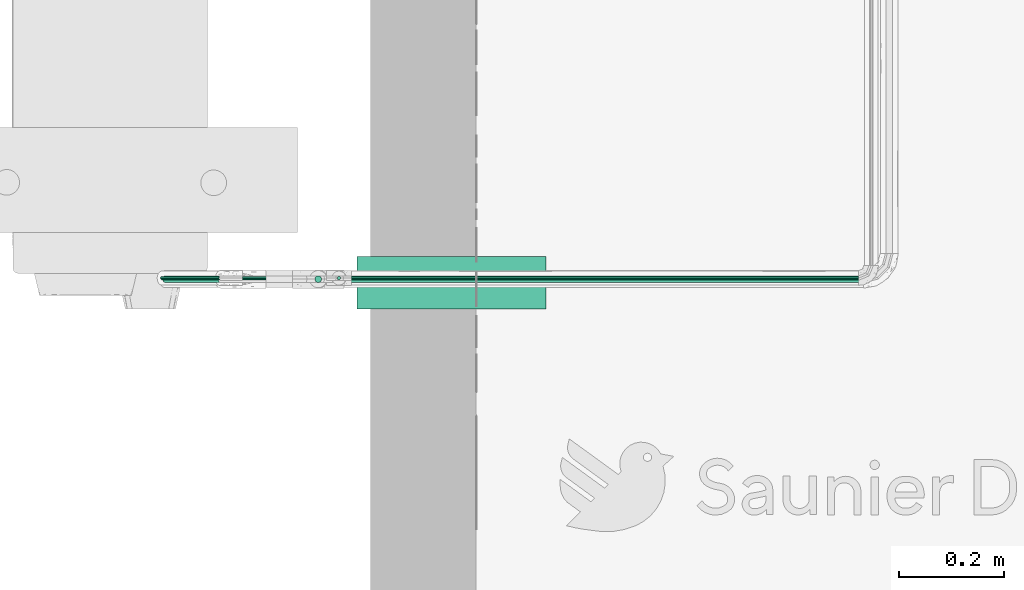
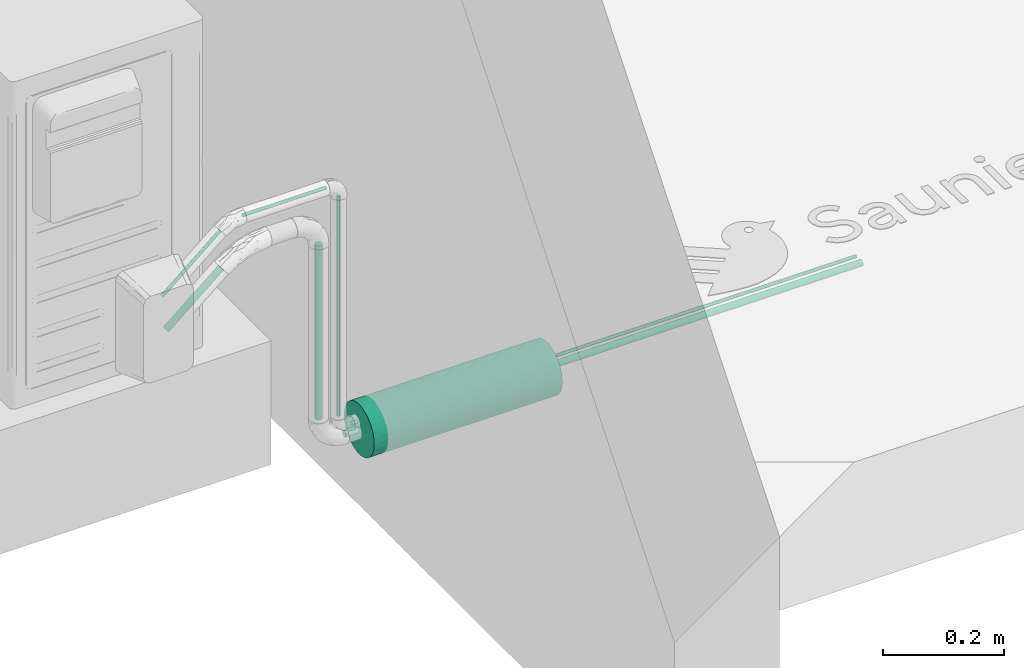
# One storey, part 17 of 30: 8 flow segments.
"""IFC2X3 building model written with IfcOpenShell, lengths in metres."""

from ifc_helpers import new_model, entity, si_unit, converted_unit, derived_unit, direction, frame, frame_2d, origin, origin_2d_with_axis, place, context, subcontext, project, spatial, circle, extrude, type_object, element, save


model = new_model("IFC2X3")

# Units and contexts
model_context = context("Model", 3, precision=1e-05, world=origin(), true_north=direction((6.123031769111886e-17, 1.0)))
body_context = subcontext(model_context, "Body", "Model", "MODEL_VIEW")
ifc_project = project(units=[si_unit("LENGTHUNIT", "METRE"), si_unit("AREAUNIT", "SQUARE_METRE"), si_unit("VOLUMEUNIT", "CUBIC_METRE"), converted_unit("PLANEANGLEUNIT", "DEGREE", entity("IfcPlaneAngleMeasure", 0.017453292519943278), si_unit("PLANEANGLEUNIT", "RADIAN"), dimensions=[0, 0, 0, 0, 0, 0, 0]), si_unit("MASSUNIT", "GRAM", prefix="KILO"), derived_unit("MASSDENSITYUNIT", [(si_unit("MASSUNIT", "GRAM", prefix="KILO"), 1), (si_unit("LENGTHUNIT", "METRE"), -3)]), derived_unit("IONCONCENTRATIONUNIT", [(si_unit("MASSUNIT", "GRAM", prefix="KILO"), 1), (si_unit("LENGTHUNIT", "METRE"), -3)]), derived_unit("MOMENTOFINERTIAUNIT", [(si_unit("LENGTHUNIT", "METRE"), 4)]), si_unit("TIMEUNIT", "SECOND"), si_unit("FREQUENCYUNIT", "HERTZ"), si_unit("THERMODYNAMICTEMPERATUREUNIT", "DEGREE_CELSIUS"), derived_unit("THERMALTRANSMITTANCEUNIT", [(si_unit("MASSUNIT", "GRAM", prefix="KILO"), 1), (si_unit("THERMODYNAMICTEMPERATUREUNIT", "KELVIN"), -1), (si_unit("TIMEUNIT", "SECOND"), -3)]), derived_unit("THERMALCONDUCTANCEUNIT", [(si_unit("MASSUNIT", "GRAM", prefix="KILO"), 1), (si_unit("THERMODYNAMICTEMPERATUREUNIT", "KELVIN"), -1), (si_unit("TIMEUNIT", "SECOND"), -3), (si_unit("LENGTHUNIT", "METRE"), 1)]), derived_unit("VOLUMETRICFLOWRATEUNIT", [(si_unit("LENGTHUNIT", "METRE", prefix="DECI"), 3), (si_unit("TIMEUNIT", "SECOND"), -1)]), derived_unit("MASSFLOWRATEUNIT", [(si_unit("MASSUNIT", "GRAM", prefix="KILO"), 1), (si_unit("TIMEUNIT", "SECOND"), -1)]), derived_unit("ROTATIONALFREQUENCYUNIT", [(si_unit("TIMEUNIT", "SECOND"), -1)]), si_unit("ELECTRICCURRENTUNIT", "AMPERE"), si_unit("ELECTRICVOLTAGEUNIT", "VOLT"), si_unit("POWERUNIT", "WATT"), si_unit("FORCEUNIT", "NEWTON", prefix="KILO"), si_unit("ILLUMINANCEUNIT", "LUX"), si_unit("LUMINOUSFLUXUNIT", "LUMEN"), si_unit("LUMINOUSINTENSITYUNIT", "CANDELA"), si_unit("ENERGYUNIT", "JOULE"), derived_unit("USERDEFINED", [(si_unit("MASSUNIT", "GRAM", prefix="KILO"), -1), (si_unit("LENGTHUNIT", "METRE"), -2), (si_unit("TIMEUNIT", "SECOND"), 3), (si_unit("LUMINOUSFLUXUNIT", "LUMEN"), 1)]), derived_unit("USERDEFINED", [(si_unit("MASSUNIT", "GRAM", prefix="KILO"), 1), (si_unit("TIMEUNIT", "SECOND"), -3), (si_unit("LENGTHUNIT", "METRE"), 3), (si_unit("ELECTRICCURRENTUNIT", "AMPERE"), -2)]), derived_unit("SOUNDPOWERUNIT", [(si_unit("MASSUNIT", "GRAM", prefix="KILO"), 1), (si_unit("TIMEUNIT", "SECOND"), -3), (si_unit("LENGTHUNIT", "METRE"), 2)]), derived_unit("SOUNDPRESSUREUNIT", [(si_unit("MASSUNIT", "GRAM", prefix="KILO"), 1), (si_unit("LENGTHUNIT", "METRE"), -1), (si_unit("TIMEUNIT", "SECOND"), -2)]), derived_unit("LINEARVELOCITYUNIT", [(si_unit("LENGTHUNIT", "METRE"), 1), (si_unit("TIMEUNIT", "SECOND"), -1)]), si_unit("PRESSUREUNIT", "PASCAL"), derived_unit("USERDEFINED", [(si_unit("MASSUNIT", "GRAM", prefix="KILO"), 1), (si_unit("LENGTHUNIT", "METRE"), -2), (si_unit("TIMEUNIT", "SECOND"), -2)]), derived_unit("LINEARFORCEUNIT", [(si_unit("MASSUNIT", "GRAM", prefix="KILO"), 1), (si_unit("TIMEUNIT", "SECOND"), -2)]), derived_unit("PLANARFORCEUNIT", [(si_unit("MASSUNIT", "GRAM", prefix="KILO"), 1), (si_unit("LENGTHUNIT", "METRE"), -1), (si_unit("TIMEUNIT", "SECOND"), -2)]), derived_unit("SPECIFICHEATCAPACITYUNIT", [(si_unit("THERMODYNAMICTEMPERATUREUNIT", "KELVIN"), -1), (si_unit("LENGTHUNIT", "METRE"), 2), (si_unit("TIMEUNIT", "SECOND"), -2)]), derived_unit("HEATFLUXDENSITYUNIT", [(si_unit("MASSUNIT", "GRAM", prefix="KILO"), 1), (si_unit("TIMEUNIT", "SECOND"), -3)]), derived_unit("HEATINGVALUEUNIT", [(si_unit("LENGTHUNIT", "METRE"), 2), (si_unit("TIMEUNIT", "SECOND"), -2)]), derived_unit("VAPORPERMEABILITYUNIT", [(si_unit("LENGTHUNIT", "METRE"), -1), (si_unit("TIMEUNIT", "SECOND"), 1)]), derived_unit("DYNAMICVISCOSITYUNIT", [(si_unit("MASSUNIT", "GRAM", prefix="KILO"), 1), (si_unit("TIMEUNIT", "SECOND"), -1), (si_unit("LENGTHUNIT", "METRE"), -1)]), derived_unit("THERMALEXPANSIONCOEFFICIENTUNIT", [(si_unit("THERMODYNAMICTEMPERATUREUNIT", "KELVIN"), -1)]), derived_unit("MODULUSOFELASTICITYUNIT", [(si_unit("MASSUNIT", "GRAM", prefix="KILO"), 1), (si_unit("LENGTHUNIT", "METRE"), -1), (si_unit("TIMEUNIT", "SECOND"), -2)]), derived_unit("ISOTHERMALMOISTURECAPACITYUNIT", [(si_unit("MASSUNIT", "GRAM", prefix="KILO"), -1), (si_unit("LENGTHUNIT", "METRE"), 3)]), derived_unit("MOISTUREDIFFUSIVITYUNIT", [(si_unit("TIMEUNIT", "SECOND"), -1), (si_unit("LENGTHUNIT", "METRE"), 2)]), derived_unit("MASSPERLENGTHUNIT", [(si_unit("MASSUNIT", "GRAM", prefix="KILO"), 1), (si_unit("LENGTHUNIT", "METRE"), -1)]), derived_unit("THERMALRESISTANCEUNIT", [(si_unit("MASSUNIT", "GRAM", prefix="KILO"), -1), (si_unit("TIMEUNIT", "SECOND"), 3), (si_unit("THERMODYNAMICTEMPERATUREUNIT", "KELVIN"), 1)]), derived_unit("ACCELERATIONUNIT", [(si_unit("LENGTHUNIT", "METRE"), 1), (si_unit("TIMEUNIT", "SECOND"), -2)]), derived_unit("ANGULARVELOCITYUNIT", [(si_unit("TIMEUNIT", "SECOND"), -1), (si_unit("PLANEANGLEUNIT", "RADIAN"), 1)]), derived_unit("LINEARSTIFFNESSUNIT", [(si_unit("MASSUNIT", "GRAM", prefix="KILO"), 1), (si_unit("TIMEUNIT", "SECOND"), -2)]), derived_unit("WARPINGCONSTANTUNIT", [(si_unit("LENGTHUNIT", "METRE"), 6)]), derived_unit("LINEARMOMENTUNIT", [(si_unit("MASSUNIT", "GRAM", prefix="KILO"), 1), (si_unit("LENGTHUNIT", "METRE"), 1), (si_unit("TIMEUNIT", "SECOND"), -2)]), derived_unit("TORQUEUNIT", [(si_unit("MASSUNIT", "GRAM", prefix="KILO"), 1), (si_unit("LENGTHUNIT", "METRE"), 2), (si_unit("TIMEUNIT", "SECOND"), -2)])], contexts=[model_context])

# Site, building, storey
site_placement = place(None, origin())
site = spatial("IfcSite", under=ifc_project, at=site_placement, Name="Default", CompositionType="ELEMENT")
building_placement = place(site_placement, origin())
building = spatial("IfcBuilding", under=site, at=building_placement, CompositionType="ELEMENT")
storey_placement = place(building_placement, origin())
storey = spatial("IfcBuildingStorey", under=building, at=storey_placement, Name="Niveau 0", CompositionType="ELEMENT", Elevation=-1.949160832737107e-14)

# Flow segments
pipe_segment_type_1 = type_object("IfcPipeSegmentType", Name="Canalisation:PVC - NF", PredefinedType="NOTDEFINED")
flow_segment_1_placement = place(storey_placement, origin())
element("IfcFlowSegment", 1, at=flow_segment_1_placement, inside=storey, type_object=pipe_segment_type_1, Name="Canalisation:PVC - NF", ObjectType="Canalisation:PVC - NF", context=body_context, shape_type="SweptSolid", body=[
    extrude(circle(Radius=0.05, at=frame_2d((2.707167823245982e-16, -6.767919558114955e-17), x_axis=(1.0, 0.0))), frame((-20.842459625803, 1.368526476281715, -0.41015511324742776), z_axis=(1.0, 0.0, 0.0), x_axis=(0.0, -1.0, 0.0)), (0.0, 0.0, 1.0), 0.35999999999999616),
])
pipe_segment_type_2 = type_object("IfcPipeSegmentType", Name="Canalisation:Cuivre Frigo", PredefinedType="NOTDEFINED")
flow_segment_2_placement = place(storey_placement, origin())
element("IfcFlowSegment", 2, at=flow_segment_2_placement, inside=storey, type_object=pipe_segment_type_2, Name="Canalisation:Cuivre Frigo", ObjectType="Canalisation:Cuivre Frigo", context=body_context, shape_type="SweptSolid", body=[
    extrude(circle(Radius=0.0032, at=frame_2d((0.0, -2.7874546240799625e-15), x_axis=(1.0, 0.0))), frame((-21.214478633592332, 1.3770530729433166, -0.01567319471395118), z_axis=(0.7660444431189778, 0.0, 0.6427876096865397), x_axis=(0.0, -1.0, 0.0)), (0.0, 0.0, 1.0), 0.14549999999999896),
])
flow_segment_3_placement = place(storey_placement, origin())
element("IfcFlowSegment", 3, at=flow_segment_3_placement, inside=storey, type_object=pipe_segment_type_2, Name="Canalisation:Cuivre Frigo", ObjectType="Canalisation:Cuivre Frigo", context=body_context, shape_type="SweptSolid", body=[
    extrude(circle(Radius=0.0032, at=origin_2d_with_axis()), frame((-21.060457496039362, 1.3770530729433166, 0.09334358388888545), z_axis=(1.0, 0.0, 0.0), x_axis=(0.0, -1.0, 0.0)), (0.0, 0.0, 1.0), 0.15944880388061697),
])
flow_segment_4_placement = place(storey_placement, origin())
element("IfcFlowSegment", 4, at=flow_segment_4_placement, inside=storey, type_object=pipe_segment_type_2, Name="Canalisation:Cuivre Frigo", ObjectType="Canalisation:Cuivre Frigo", context=body_context, shape_type="SweptSolid", body=[
    extrude(circle(Radius=0.00635, at=frame_2d((0.0, -1.2961317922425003e-17), x_axis=(1.0, 0.0))), frame((-21.208033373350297, 1.375053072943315, -0.08467319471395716), z_axis=(0.7660444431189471, 0.0, 0.6427876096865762), x_axis=(0.0, 1.0, 0.0)), (0.0, 0.0, 1.0), 0.13792377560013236),
])
flow_segment_5_placement = place(storey_placement, origin())
element("IfcFlowSegment", 5, at=flow_segment_5_placement, inside=storey, type_object=pipe_segment_type_2, Name="Canalisation:Cuivre Frigo", ObjectType="Canalisation:Cuivre Frigo", context=body_context, shape_type="SweptSolid", body=[
    extrude(circle(Radius=0.0032, at=origin_2d_with_axis()), frame((-20.876908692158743, 1.3770530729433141, -0.3758999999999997)), (0.0, 0.0, 1.0), 0.4451435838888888),
])
flow_segment_6_placement = place(storey_placement, origin())
element("IfcFlowSegment", 6, at=flow_segment_6_placement, inside=storey, type_object=pipe_segment_type_2, Name="Canalisation:Cuivre Frigo", ObjectType="Canalisation:Cuivre Frigo", context=body_context, shape_type="SweptSolid", body=[
    extrude(circle(Radius=0.0032, at=frame_2d((-4.602185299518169e-15, 1.6919798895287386e-15), x_axis=(1.0, 0.0))), frame((-20.852808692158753, 1.3770530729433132, -0.39999999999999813), z_axis=(1.0, 0.0, 0.0), x_axis=(0.0, 1.0, 0.0)), (0.0, 0.0, 1.0), 0.9655442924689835),
])
flow_segment_7_placement = place(storey_placement, origin())
element("IfcFlowSegment", 7, at=flow_segment_7_placement, inside=storey, type_object=pipe_segment_type_2, Name="Canalisation:Cuivre Frigo", ObjectType="Canalisation:Cuivre Frigo", context=body_context, shape_type="SweptSolid", body=[
    extrude(circle(Radius=0.00635, at=origin_2d_with_axis()), frame((-20.867036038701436, 1.3750530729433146, -0.4149999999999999), z_axis=(1.0, 0.0, 0.0), x_axis=(0.0, -1.0, 0.0)), (0.0, 0.0, 1.0), 0.9889466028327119),
])
flow_segment_8_placement = place(storey_placement, origin())
element("IfcFlowSegment", 8, at=flow_segment_8_placement, inside=storey, type_object=pipe_segment_type_2, Name="Canalisation:Cuivre Frigo", ObjectType="Canalisation:Cuivre Frigo", context=body_context, shape_type="SweptSolid", body=[
    extrude(circle(Radius=0.00635, at=origin_2d_with_axis()), frame((-20.916336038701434, 1.3750530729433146, -0.36569999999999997)), (0.0, 0.0, 1.0), 0.35210284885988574),
])

save(model, "model.ifc")
